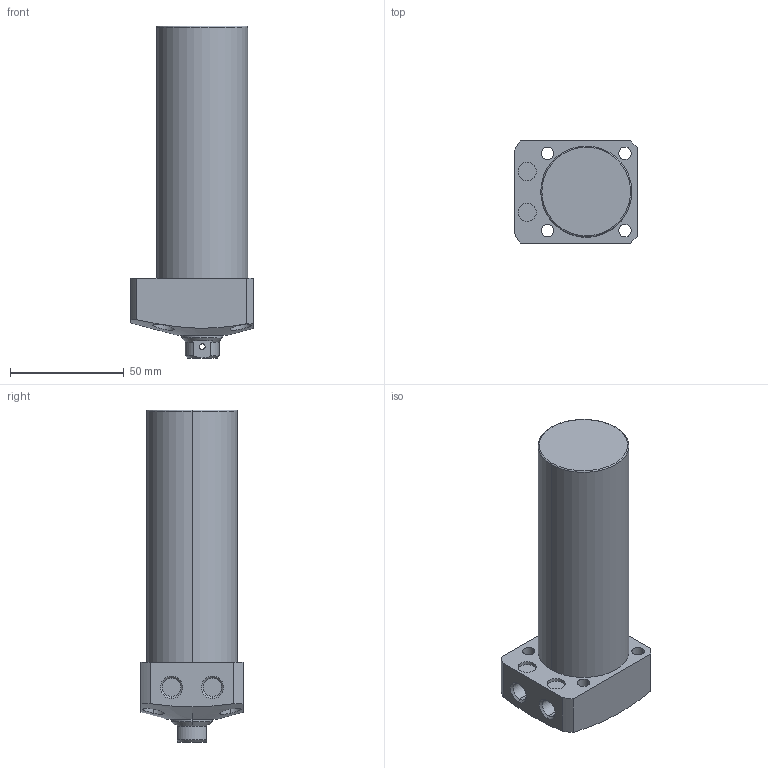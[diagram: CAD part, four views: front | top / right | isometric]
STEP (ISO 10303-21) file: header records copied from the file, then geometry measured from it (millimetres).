
FILE_DESCRIPTION (( 'STEP AP203' ), '1' );
FILE_NAME ('CLL-040CB-085.STEP', '2019-12-21T03:54:41', ( '' ), ( '' ), 'SwSTEP 2.0', 'SolidWorks 2015', '' );
FILE_SCHEMA (( 'CONFIG_CONTROL_DESIGN' ));
Length unit declared in the file: millimetre
Products named in the file (1): CLL-040CB-085
Bounding box: 54 x 45 x 146 mm (x, y, z)
Volume: 189894 mm3; surface area: 26081.7 mm2
Topology: 1 solids, 1 shells, 78 faces, 182 edges, 115 vertices
Faces by surface type: cylinder 39, plane 22, cone 15, torus 2
Entity records: 2721 total; most frequent: CARTESIAN_POINT 822, DIRECTION 394, ORIENTED_EDGE 360, EDGE_CURVE 180, AXIS2_PLACEMENT_3D 163, VERTEX_POINT 115, EDGE_LOOP 101, CIRCLE 84
